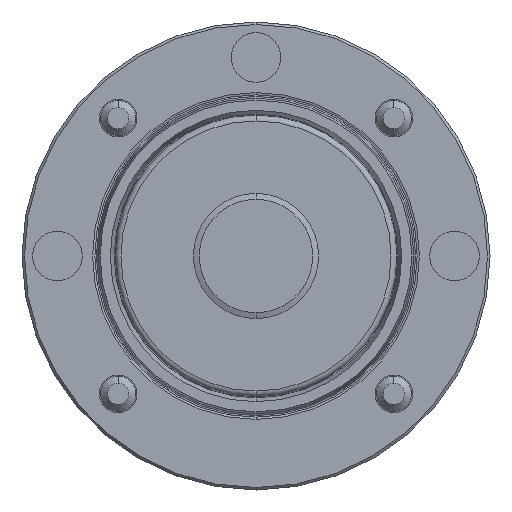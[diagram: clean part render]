
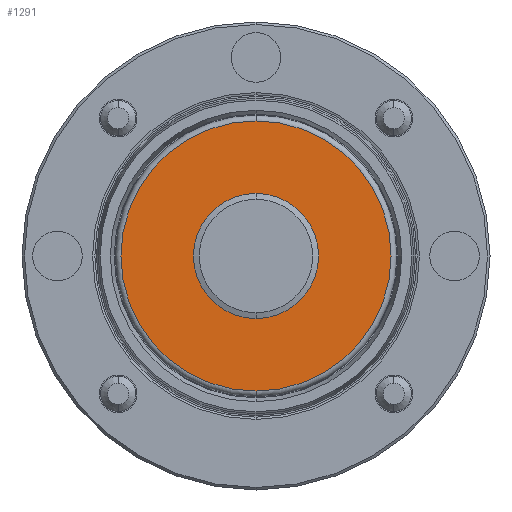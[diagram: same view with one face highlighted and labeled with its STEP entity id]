
A CAD part, front view. The second image highlights one B-rep face of the part: STEP entity #1291.
In plain terms, the highlighted planar face has unit normal (0, -1, 0).
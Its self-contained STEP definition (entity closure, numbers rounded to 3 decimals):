
#316 = AXIS2_PLACEMENT_3D ( 'NONE', #318, #372, #371 ) ;
#317 = PLANE ( 'NONE',  #316 ) ;
#318 = CARTESIAN_POINT ( 'NONE',  ( 19.85, -11.7, 0. ) ) ;
#322 = CIRCLE ( 'NONE', #367, 8.824 ) ;
#330 = FACE_BOUND ( 'NONE', #1120, .T. ) ;
#341 = FACE_OUTER_BOUND ( 'NONE', #1304, .T. ) ;
#364 = DIRECTION ( 'NONE',  ( 0., 0., 1. ) ) ;
#365 = DIRECTION ( 'NONE',  ( 0., 1., 0. ) ) ;
#366 = CARTESIAN_POINT ( 'NONE',  ( 0., -11.7, 0. ) ) ;
#367 = AXIS2_PLACEMENT_3D ( 'NONE', #366, #365, #364 ) ;
#371 = DIRECTION ( 'NONE',  ( 0., 0., 1. ) ) ;
#372 = DIRECTION ( 'NONE',  ( 0., 1., 0. ) ) ;
#424 = VERTEX_POINT ( 'NONE', #5505 ) ;
#425 = VERTEX_POINT ( 'NONE', #5499 ) ;
#477 = VERTEX_POINT ( 'NONE', #5552 ) ;
#481 = EDGE_CURVE ( 'NONE', #424, #425, #5554, .T. ) ;
#510 = EDGE_CURVE ( 'NONE', #608, #477, #5576, .T. ) ;
#608 = VERTEX_POINT ( 'NONE', #5572 ) ;
#1115 = EDGE_CURVE ( 'NONE', #425, #424, #6165, .T. ) ;
#1120 = EDGE_LOOP ( 'NONE', ( #1314, #1294 ) ) ;
#1291 = ADVANCED_FACE ( 'NONE', ( #341, #330 ), #317, .F. ) ;
#1292 = ORIENTED_EDGE ( 'NONE', *, *, #481, .T. ) ;
#1293 = ORIENTED_EDGE ( 'NONE', *, *, #1115, .T. ) ;
#1294 = ORIENTED_EDGE ( 'NONE', *, *, #1295, .T. ) ;
#1295 = EDGE_CURVE ( 'NONE', #477, #608, #322, .T. ) ;
#1304 = EDGE_LOOP ( 'NONE', ( #1293, #1292 ) ) ;
#1314 = ORIENTED_EDGE ( 'NONE', *, *, #510, .T. ) ;
#5499 = CARTESIAN_POINT ( 'NONE',  ( 0., -11.7, 19.05 ) ) ;
#5505 = CARTESIAN_POINT ( 'NONE',  ( 0., -11.7, -19.05 ) ) ;
#5534 = DIRECTION ( 'NONE',  ( 0., 0., 1. ) ) ;
#5535 = DIRECTION ( 'NONE',  ( 0., -1., 0. ) ) ;
#5536 = CARTESIAN_POINT ( 'NONE',  ( 0., -11.7, 0. ) ) ;
#5549 = AXIS2_PLACEMENT_3D ( 'NONE', #5536, #5535, #5534 ) ;
#5552 = CARTESIAN_POINT ( 'NONE',  ( 0., -11.7, -8.824 ) ) ;
#5554 = CIRCLE ( 'NONE', #5549, 19.05 ) ;
#5562 = DIRECTION ( 'NONE',  ( 0., 0., 1. ) ) ;
#5563 = DIRECTION ( 'NONE',  ( 0., 1., 0. ) ) ;
#5564 = AXIS2_PLACEMENT_3D ( 'NONE', #5571, #5563, #5562 ) ;
#5571 = CARTESIAN_POINT ( 'NONE',  ( 0., -11.7, 0. ) ) ;
#5572 = CARTESIAN_POINT ( 'NONE',  ( 0., -11.7, 8.824 ) ) ;
#5576 = CIRCLE ( 'NONE', #5564, 8.824 ) ;
#6152 = DIRECTION ( 'NONE',  ( 0., 0., 1. ) ) ;
#6153 = DIRECTION ( 'NONE',  ( 0., -1., 0. ) ) ;
#6154 = CARTESIAN_POINT ( 'NONE',  ( 0., -11.7, 0. ) ) ;
#6155 = AXIS2_PLACEMENT_3D ( 'NONE', #6154, #6153, #6152 ) ;
#6165 = CIRCLE ( 'NONE', #6155, 19.05 ) ;
